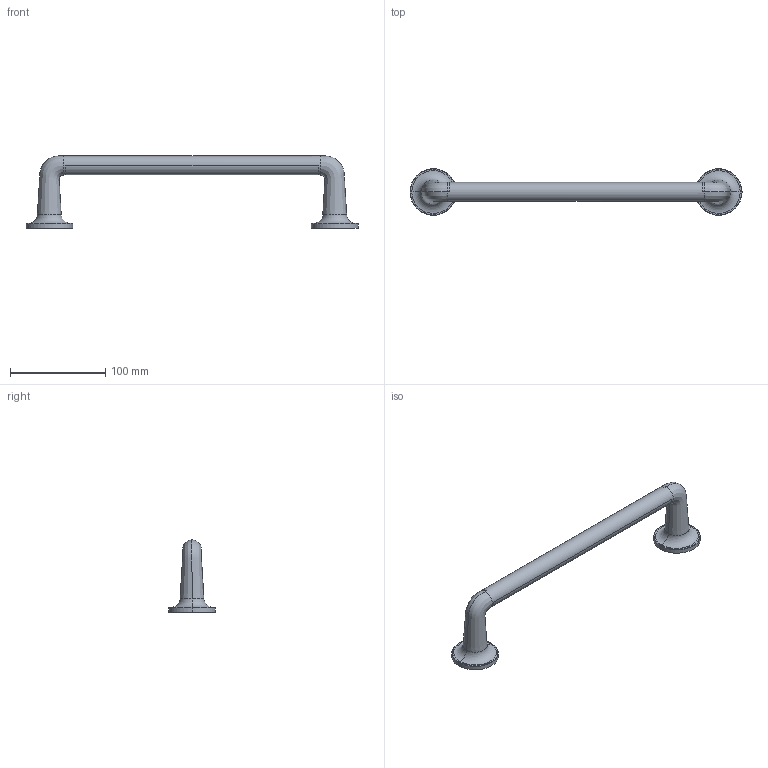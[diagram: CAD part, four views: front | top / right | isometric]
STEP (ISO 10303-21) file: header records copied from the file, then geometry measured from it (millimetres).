
FILE_DESCRIPTION((''),'2;1');
FILE_NAME('NO_TASSELLI__SW0001','2025-11-10T11:24:22',('giacomo.molli'),(''),'CREO PARAMETRIC BY PTC INC, 2025010','CREO PARAMETRIC BY PTC INC, 2025010','');
FILE_SCHEMA(('AUTOMOTIVE_DESIGN { 1 0 10303 214 1 1 1 1 }'));
Length unit declared in the file: millimetre
Products named in the file (1): NO_TASSELLI__SW0001
Bounding box: 349 x 49 x 75.8 mm (x, y, z)
Volume: 162607.7 mm3; surface area: 34266.8 mm2
Topology: 1 solids, 1 shells, 22 faces, 52 edges, 34 vertices
Faces by surface type: torus 8, cylinder 6, plane 4, bspline 4
Entity records: 2900 total; most frequent: CARTESIAN_POINT 2132, DIRECTION 121, ORIENTED_EDGE 104, AXIS2_PLACEMENT_3D 54, EDGE_CURVE 52, VERTEX_POINT 34, CIRCLE 30, EDGE_LOOP 24
